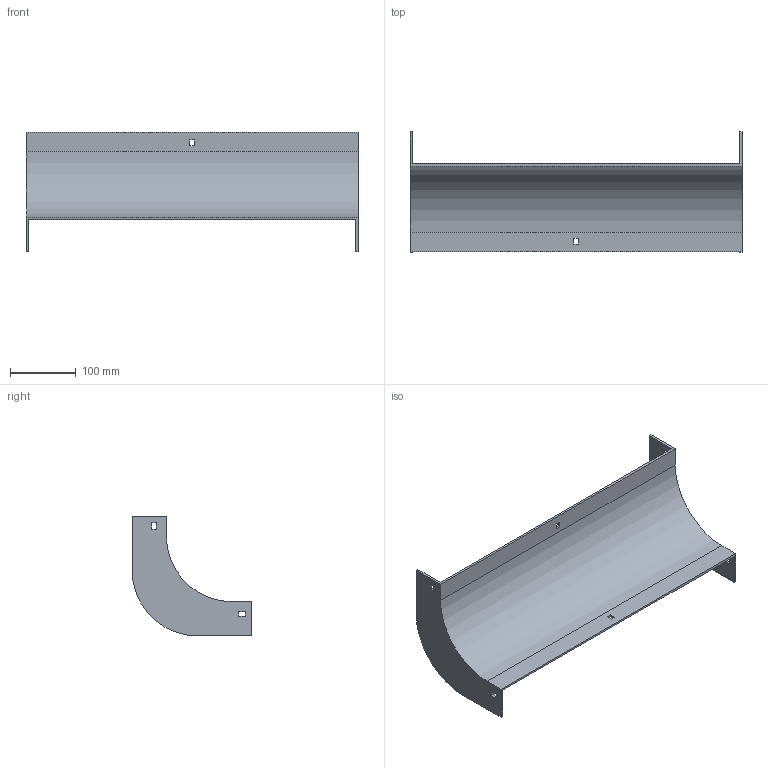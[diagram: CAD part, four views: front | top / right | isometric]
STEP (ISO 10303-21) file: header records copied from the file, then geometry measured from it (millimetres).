
FILE_DESCRIPTION (( 'STEP AP214' ), '1' );
FILE_NAME ('33F1B500.step', '2025-02-21T12:52:35', ( '' ), ( '' ), 'SwSTEP 2.0', 'SolidWorks 2023', '' );
FILE_SCHEMA (( 'AUTOMOTIVE_DESIGN' ));
Length unit declared in the file: millimetre
Products named in the file (1): 33F1B500
Bounding box: 504 x 182 x 182 mm (x, y, z)
Volume: 494570.2 mm3; surface area: 289739.9 mm2
Topology: 1 solids, 1 shells, 42 faces, 120 edges, 80 vertices
Faces by surface type: plane 38, cylinder 4
Entity records: 1399 total; most frequent: CARTESIAN_POINT 243, ORIENTED_EDGE 240, DIRECTION 214, EDGE_CURVE 120, LINE 112, VECTOR 112, VERTEX_POINT 80, EDGE_LOOP 54
